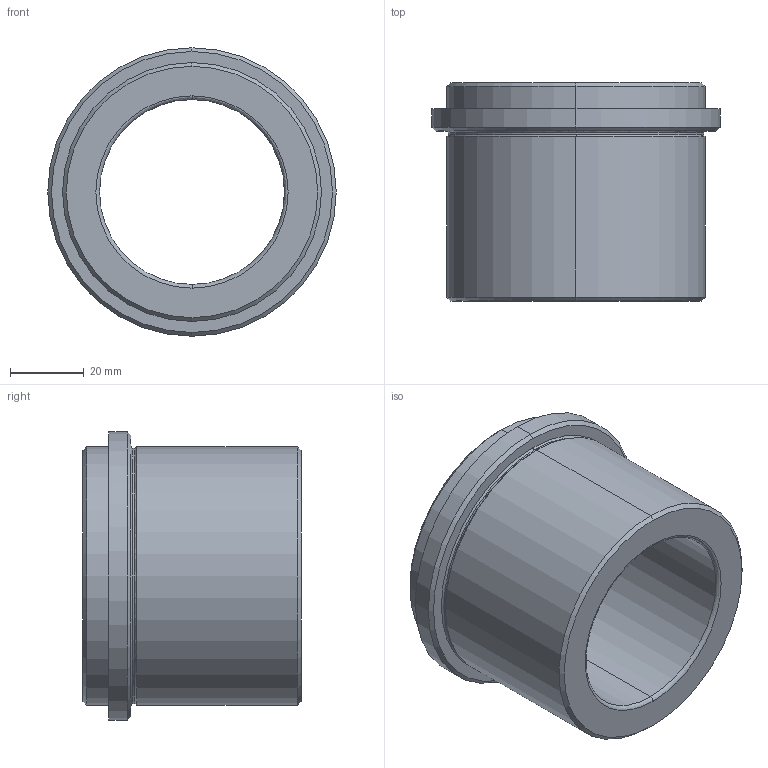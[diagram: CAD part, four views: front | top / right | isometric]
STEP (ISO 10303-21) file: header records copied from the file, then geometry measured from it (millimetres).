
FILE_DESCRIPTION( ( 'STEP AP203' ), '1' );
FILE_NAME( 'D:/Delta 3 D/D33/D33 - 50x46.step', '2002-12-31T23:42:43', ( ' ' ), ( ' ' ), 'XStep 1.0', ' ', ' ' );
FILE_SCHEMA( ( 'CONFIG_CONTROL_DESIGN' ) );
Length unit declared in the file: metre
Products named in the file (1): 1
Bounding box: 78 x 59 x 78 mm (x, y, z)
Volume: 116244.1 mm3; surface area: 27604.8 mm2
Topology: 1 solids, 1 shells, 28 faces, 56 edges, 32 vertices
Faces by surface type: revolution 16, bspline 12
Entity records: 893 total; most frequent: CARTESIAN_POINT 305, ORIENTED_EDGE 112, DIRECTION 98, EDGE_CURVE 56, AXIS2_PLACEMENT_3D 33, EDGE_LOOP 32, VERTEX_POINT 32, CIRCLE 32
